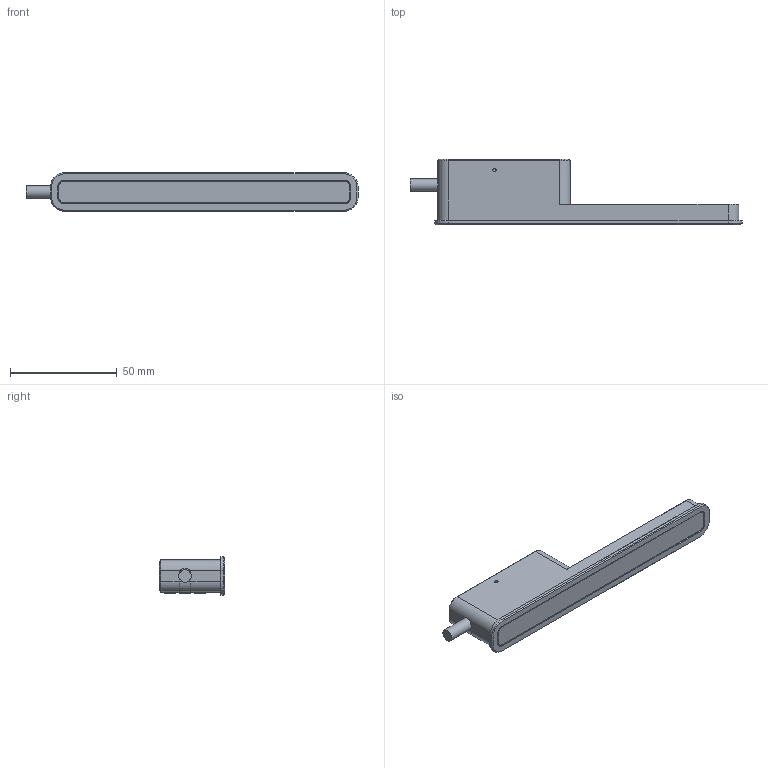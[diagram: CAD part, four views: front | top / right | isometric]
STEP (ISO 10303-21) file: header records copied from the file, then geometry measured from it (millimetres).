
FILE_DESCRIPTION(/* description */ (''),/* implementation_level */ '2;1');
FILE_NAME(/* name */ 'SSS_Basic_Cable_v3.step',/* time_stamp */ '2026-09-12T15:40:11+04:00',/* author */ (''),/* organization */ (''),/* preprocessor_version */ 'ST-DEVELOPER v20.2',/* originating_system */ 'Autodesk Translation Framework v15.15.0.0',/* authorisation */ '');
FILE_SCHEMA (('AUTOMOTIVE_DESIGN { 1 0 10303 214 3 1 1 }'));
Length unit declared in the file: millimetre
Products named in the file (1): SSS_Base
Bounding box: 155.5 x 30.5 x 18 mm (x, y, z)
Volume: 38920.1 mm3; surface area: 18154.2 mm2
Topology: 6 solids, 6 shells, 389 faces, 932 edges, 561 vertices
Faces by surface type: plane 154, cylinder 148, cone 45, torus 24, sphere 18
Full cylindrical faces by diameter (mm): 1.623 x4, 2 x5, 2.5 x1, 3.5 x1, 4 x1, 5.2 x3, 5.8 x1
Entity records: 11259 total; most frequent: DIRECTION 2100, CARTESIAN_POINT 1907, ORIENTED_EDGE 1864, EDGE_CURVE 932, AXIS2_PLACEMENT_3D 782, VERTEX_POINT 561, LINE 536, VECTOR 536
